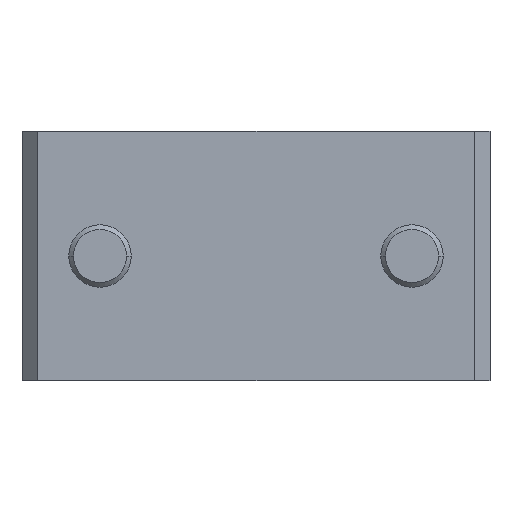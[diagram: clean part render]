
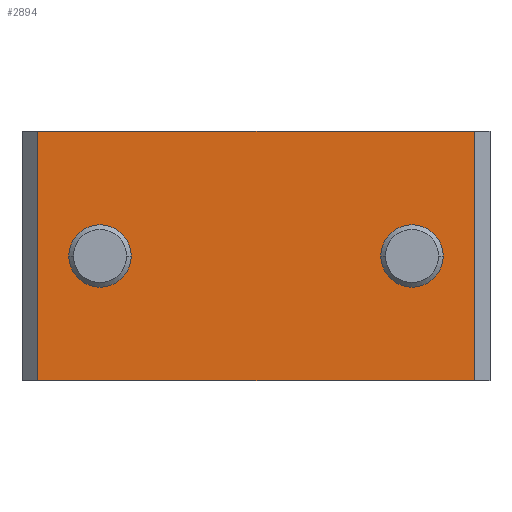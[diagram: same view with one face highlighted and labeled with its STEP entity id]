
A CAD part, front view. The second image highlights one B-rep face of the part: STEP entity #2894.
In plain terms, the highlighted planar face has unit normal (0, -1, 0).
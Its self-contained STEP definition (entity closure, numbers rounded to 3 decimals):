
#9 = DIRECTION ( 'NONE',  ( 0., 0., 1. ) ) ;
#101 = CARTESIAN_POINT ( 'NONE',  ( -57.117, 27.304, -8. ) ) ;
#154 = DIRECTION ( 'NONE',  ( 0., -1., 0. ) ) ;
#244 = VECTOR ( 'NONE', #19367, 1000. ) ;
#1104 = EDGE_CURVE ( 'NONE', #21596, #3641, #4000, .T. ) ;
#1890 = CARTESIAN_POINT ( 'NONE',  ( -85.117, 27.304, -5. ) ) ;
#1931 = AXIS2_PLACEMENT_3D ( 'NONE', #19010, #8716, #20738 ) ;
#2345 = EDGE_CURVE ( 'NONE', #22171, #5516, #7705, .T. ) ;
#2753 = CARTESIAN_POINT ( 'NONE',  ( -81.117, 27.304, -2. ) ) ;
#2894 = ADVANCED_FACE ( 'NONE', ( #13226, #18326, #4576 ), #5254, .F. ) ;
#3176 = DIRECTION ( 'NONE',  ( 0., 0., -1. ) ) ;
#3535 = ORIENTED_EDGE ( 'NONE', *, *, #13995, .F. ) ;
#3608 = DIRECTION ( 'NONE',  ( 0., 0., 1. ) ) ;
#3641 = VERTEX_POINT ( 'NONE', #6199 ) ;
#4000 = CIRCLE ( 'NONE', #20892, 2. ) ;
#4396 = CARTESIAN_POINT ( 'NONE',  ( -61.117, 27.304, 0. ) ) ;
#4527 = CARTESIAN_POINT ( 'NONE',  ( -57.117, 27.304, 8. ) ) ;
#4576 = FACE_OUTER_BOUND ( 'NONE', #15192, .T. ) ;
#4621 = VERTEX_POINT ( 'NONE', #18263 ) ;
#5069 = DIRECTION ( 'NONE',  ( 0., 0., 1. ) ) ;
#5254 = PLANE ( 'NONE',  #19068 ) ;
#5516 = VERTEX_POINT ( 'NONE', #4527 ) ;
#5963 = LINE ( 'NONE', #13470, #19147 ) ;
#6199 = CARTESIAN_POINT ( 'NONE',  ( -61.117, 27.304, 2. ) ) ;
#6268 = DIRECTION ( 'NONE',  ( -1., 0., 0. ) ) ;
#7705 = LINE ( 'NONE', #8596, #20909 ) ;
#7934 = CARTESIAN_POINT ( 'NONE',  ( -85.117, 27.304, -8. ) ) ;
#8098 = VERTEX_POINT ( 'NONE', #2753 ) ;
#8406 = ORIENTED_EDGE ( 'NONE', *, *, #13166, .F. ) ;
#8596 = CARTESIAN_POINT ( 'NONE',  ( -56.117, 27.304, 8. ) ) ;
#8704 = EDGE_LOOP ( 'NONE', ( #19863, #13519 ) ) ;
#8716 = DIRECTION ( 'NONE',  ( 0., -1., 0. ) ) ;
#8991 = EDGE_CURVE ( 'NONE', #4621, #8098, #10099, .T. ) ;
#9013 = EDGE_LOOP ( 'NONE', ( #13571, #18731 ) ) ;
#9064 = CARTESIAN_POINT ( 'NONE',  ( -85.117, 27.304, 0. ) ) ;
#10099 = CIRCLE ( 'NONE', #19650, 2. ) ;
#10252 = DIRECTION ( 'NONE',  ( 0., -1., 0. ) ) ;
#10337 = ORIENTED_EDGE ( 'NONE', *, *, #14673, .F. ) ;
#10393 = CARTESIAN_POINT ( 'NONE',  ( -81.117, 27.304, 0. ) ) ;
#10513 = DIRECTION ( 'NONE',  ( 1., 0., 0. ) ) ;
#11404 = CARTESIAN_POINT ( 'NONE',  ( -61.117, 27.304, -2. ) ) ;
#12150 = DIRECTION ( 'NONE',  ( 0., 0., 1. ) ) ;
#12274 = LINE ( 'NONE', #7934, #16843 ) ;
#13166 = EDGE_CURVE ( 'NONE', #5516, #20726, #5963, .T. ) ;
#13226 = FACE_BOUND ( 'NONE', #9013, .T. ) ;
#13260 = CARTESIAN_POINT ( 'NONE',  ( -85.117, 27.304, 8. ) ) ;
#13470 = CARTESIAN_POINT ( 'NONE',  ( -57.117, 27.304, 0. ) ) ;
#13519 = ORIENTED_EDGE ( 'NONE', *, *, #8991, .F. ) ;
#13571 = ORIENTED_EDGE ( 'NONE', *, *, #1104, .F. ) ;
#13667 = DIRECTION ( 'NONE',  ( 0., -1., 0. ) ) ;
#13916 = DIRECTION ( 'NONE',  ( 0., 1., 0. ) ) ;
#13995 = EDGE_CURVE ( 'NONE', #18051, #22171, #17974, .T. ) ;
#14673 = EDGE_CURVE ( 'NONE', #20726, #18051, #12274, .T. ) ;
#15192 = EDGE_LOOP ( 'NONE', ( #19297, #3535, #10337, #8406 ) ) ;
#16843 = VECTOR ( 'NONE', #6268, 1000. ) ;
#16962 = CARTESIAN_POINT ( 'NONE',  ( -85.117, 27.304, -8. ) ) ;
#17806 = CIRCLE ( 'NONE', #22013, 2. ) ;
#17974 = LINE ( 'NONE', #9064, #244 ) ;
#18051 = VERTEX_POINT ( 'NONE', #16962 ) ;
#18084 = CIRCLE ( 'NONE', #1931, 2. ) ;
#18263 = CARTESIAN_POINT ( 'NONE',  ( -81.117, 27.304, 2. ) ) ;
#18326 = FACE_BOUND ( 'NONE', #8704, .T. ) ;
#18731 = ORIENTED_EDGE ( 'NONE', *, *, #21197, .F. ) ;
#19010 = CARTESIAN_POINT ( 'NONE',  ( -81.117, 27.304, 0. ) ) ;
#19068 = AXIS2_PLACEMENT_3D ( 'NONE', #1890, #13916, #3608 ) ;
#19147 = VECTOR ( 'NONE', #3176, 1000. ) ;
#19264 = EDGE_CURVE ( 'NONE', #8098, #4621, #18084, .T. ) ;
#19297 = ORIENTED_EDGE ( 'NONE', *, *, #2345, .F. ) ;
#19367 = DIRECTION ( 'NONE',  ( 0., 0., 1. ) ) ;
#19650 = AXIS2_PLACEMENT_3D ( 'NONE', #10393, #154, #12150 ) ;
#19863 = ORIENTED_EDGE ( 'NONE', *, *, #19264, .F. ) ;
#20600 = CARTESIAN_POINT ( 'NONE',  ( -61.117, 27.304, 0. ) ) ;
#20726 = VERTEX_POINT ( 'NONE', #101 ) ;
#20738 = DIRECTION ( 'NONE',  ( 0., 0., 1. ) ) ;
#20892 = AXIS2_PLACEMENT_3D ( 'NONE', #4396, #13667, #5069 ) ;
#20909 = VECTOR ( 'NONE', #10513, 1000. ) ;
#21197 = EDGE_CURVE ( 'NONE', #3641, #21596, #17806, .T. ) ;
#21596 = VERTEX_POINT ( 'NONE', #11404 ) ;
#22013 = AXIS2_PLACEMENT_3D ( 'NONE', #20600, #10252, #9 ) ;
#22171 = VERTEX_POINT ( 'NONE', #13260 ) ;
